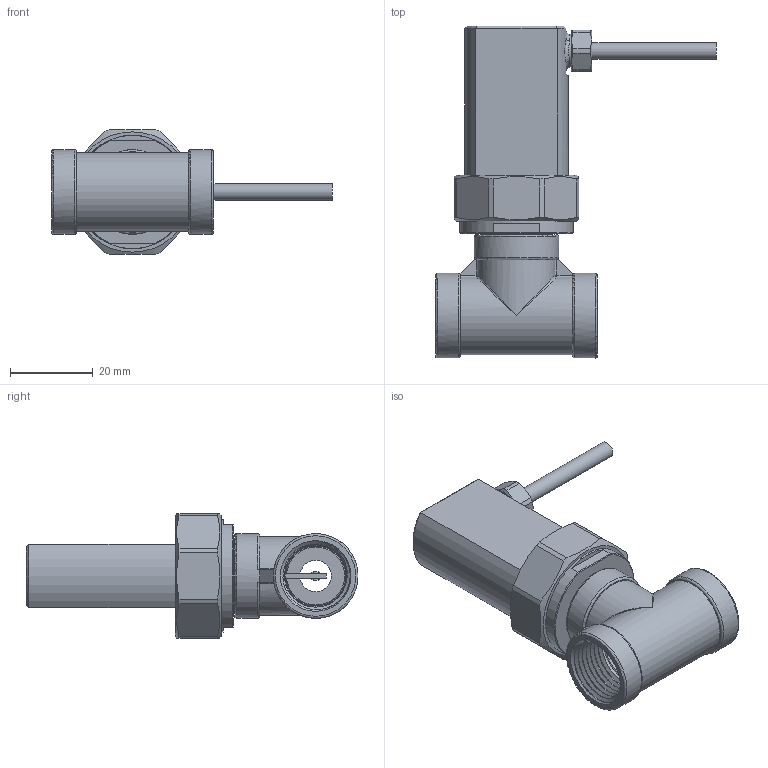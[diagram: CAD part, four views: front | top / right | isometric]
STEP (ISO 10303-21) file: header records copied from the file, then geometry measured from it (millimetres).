
FILE_DESCRIPTION(/* description */ (''),/* implementation_level */ '2;1');
FILE_NAME(/* name */ 'Mini-IL 30.212 Standard.stp',/* time_stamp */ '2025-07-15T13:54:31+02:00',/* author */ (''),/* organization */ (''),/* preprocessor_version */ 'ST-DEVELOPER v19.4',/* originating_system */ 'SIEMENS PLM Software NX2306.8501',/* authorisation */ '');
FILE_SCHEMA (('AP203_CONFIGURATION_CONTROLLED_3D_DESIGN_OF_MECHANICAL_PARTS_AND_ASSEMBLIES_MIM_LF { 1 0 10303 403 2 1 2}'));
Length unit declared in the file: millimetre
Products named in the file (1): 01_objects
Bounding box: 67.7 x 80 x 30 mm (x, y, z)
Surface area: 14602.7 mm2 (no closed solid volume)
Topology: 0 solids, 1 shells, 209 faces, 576 edges, 367 vertices
Faces by surface type: plane 101, cylinder 56, cone 23, bspline 15, torus 10, sphere 4
Full cylindrical faces by diameter (mm): 4 x1, 8 x1, 14.5 x4, 14.6 x1, 15 x8, 20.4 x3, 27.3 x1, 27.4 x1
Entity records: 10732 total; most frequent: CARTESIAN_POINT 6023, ORIENTED_EDGE 968, DIRECTION 902, EDGE_CURVE 484, AXIS2_PLACEMENT_3D 340, VERTEX_POINT 329, EDGE_LOOP 259, LINE 222
